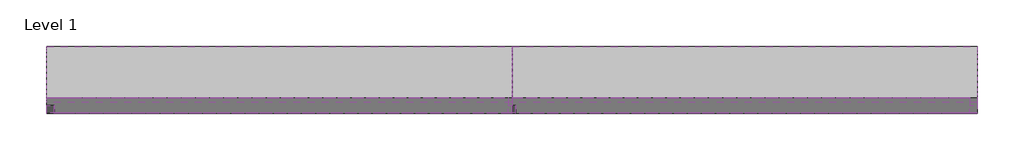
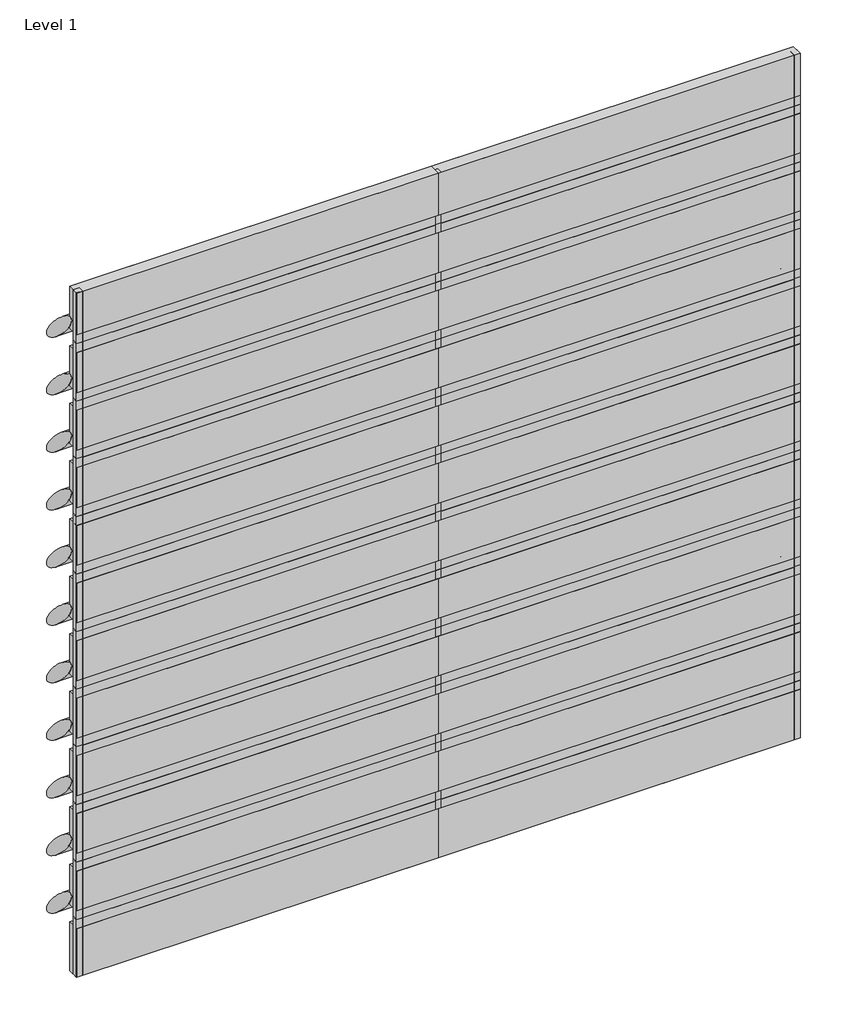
# One storey: 58 members, 48 plates.
"""IFC4 building model written with IfcOpenShell, lengths in millimetres."""

from ifc_helpers import new_model, si_unit, origin, place, context, project, spatial, transform, mapped, element, save
from components import rectangular_mullion_b4513789, rectangular_mullion_058744f8, rectangular_mullion_f7ae43f3, rectangular_mullion_a2429558, rectangular_mullion_4e96f492, rectangular_mullion_4d54ce13, rectangular_mullion_fc1c4b0a, empty_system_panel_empty_84209388, empty_system_panel_empty_0e55d925, empty_system_panel_empty_ab265454, empty_system_panel_empty_441d4f81, empty_system_panel_empty_c037ad02

model = new_model("IFC4")

# Units and contexts
model_context = context("Model", 3, world=origin())
ifc_project = project(units=[si_unit("LENGTHUNIT", "METRE", prefix="MILLI")], contexts=[model_context])

# Site, building, storey
site = spatial("IfcSite", under=ifc_project)
building = spatial("IfcBuilding", under=site)
storey = spatial("IfcBuildingStorey", under=building, Name="Level 1", Elevation=0.0)

# Members
placement = place(None, origin())
rectangular_mullion_shape = rectangular_mullion_b4513789(model_context)
element("IfcMember", 1, ObjectType="Rectangular Mullion : RSen_21_CWM_blade - wing 500 - 45° perforated_gen_duco projects", at=placement, inside=storey, context=model_context, shape_type="MappedRepresentation", body=[
    mapped(rectangular_mullion_shape, transform((3000.0, 3000.0, 505.0), x_axis=(0.0, 0.0, 1.0), y_axis=(0.0, 1.0, 0.0), z_axis=(-1.0, 0.0, 0.0))),
])
element("IfcMember", 2, ObjectType="Rectangular Mullion : RSen_21_CWM_blade - wing 500 - 45° perforated_gen_duco projects", at=placement, inside=storey, context=model_context, shape_type="MappedRepresentation", body=[
    mapped(rectangular_mullion_shape, transform((3000.0, 3000.0, 1010.0), x_axis=(0.0, 0.0, 1.0), y_axis=(0.0, 1.0, 0.0), z_axis=(-1.0, 0.0, 0.0))),
])
element("IfcMember", 3, ObjectType="Rectangular Mullion : RSen_21_CWM_blade - wing 500 - 45° perforated_gen_duco projects", at=placement, inside=storey, context=model_context, shape_type="MappedRepresentation", body=[
    mapped(rectangular_mullion_shape, transform((3000.0, 3000.0, 1515.0), x_axis=(0.0, 0.0, 1.0), y_axis=(0.0, 1.0, 0.0), z_axis=(-1.0, 0.0, 0.0))),
])
element("IfcMember", 4, ObjectType="Rectangular Mullion : RSen_21_CWM_blade - wing 500 - 45° perforated_gen_duco projects", at=placement, inside=storey, context=model_context, shape_type="MappedRepresentation", body=[
    mapped(rectangular_mullion_shape, transform((3000.0, 3000.0, 2020.0), x_axis=(0.0, 0.0, 1.0), y_axis=(0.0, 1.0, 0.0), z_axis=(-1.0, 0.0, 0.0))),
])
element("IfcMember", 5, ObjectType="Rectangular Mullion : RSen_21_CWM_blade - wing 500 - 45° perforated_gen_duco projects", at=placement, inside=storey, context=model_context, shape_type="MappedRepresentation", body=[
    mapped(rectangular_mullion_shape, transform((3000.0, 3000.0, 2525.0), x_axis=(0.0, 0.0, 1.0), y_axis=(0.0, 1.0, 0.0), z_axis=(-1.0, 0.0, 0.0))),
])
element("IfcMember", 6, ObjectType="Rectangular Mullion : RSen_21_CWM_blade - wing 500 - 45° perforated_gen_duco projects", at=placement, inside=storey, context=model_context, shape_type="MappedRepresentation", body=[
    mapped(rectangular_mullion_shape, transform((3000.0, 3000.0, 3030.0), x_axis=(0.0, 0.0, 1.0), y_axis=(0.0, 1.0, 0.0), z_axis=(-1.0, 0.0, 0.0))),
])
element("IfcMember", 7, ObjectType="Rectangular Mullion : RSen_21_CWM_blade - wing 500 - 45° perforated_gen_duco projects", at=placement, inside=storey, context=model_context, shape_type="MappedRepresentation", body=[
    mapped(rectangular_mullion_shape, transform((3000.0, 3000.0, 3535.0), x_axis=(0.0, 0.0, 1.0), y_axis=(0.0, 1.0, 0.0), z_axis=(-1.0, 0.0, 0.0))),
])
element("IfcMember", 8, ObjectType="Rectangular Mullion : RSen_21_CWM_blade - wing 500 - 45° perforated_gen_duco projects", at=placement, inside=storey, context=model_context, shape_type="MappedRepresentation", body=[
    mapped(rectangular_mullion_shape, transform((3000.0, 3000.0, 4040.0), x_axis=(0.0, 0.0, 1.0), y_axis=(0.0, 1.0, 0.0), z_axis=(-1.0, 0.0, 0.0))),
])
element("IfcMember", 9, ObjectType="Rectangular Mullion : RSen_21_CWM_blade - wing 500 - 45° perforated_gen_duco projects", at=placement, inside=storey, context=model_context, shape_type="MappedRepresentation", body=[
    mapped(rectangular_mullion_shape, transform((3000.0, 3000.0, 4545.0), x_axis=(0.0, 0.0, 1.0), y_axis=(0.0, 1.0, 0.0), z_axis=(-1.0, 0.0, 0.0))),
])
element("IfcMember", 10, ObjectType="Rectangular Mullion : RSen_21_CWM_blade - wing 500 - 45° perforated_gen_duco projects", at=placement, inside=storey, context=model_context, shape_type="MappedRepresentation", body=[
    mapped(rectangular_mullion_shape, transform((3000.0, 3000.0, 5050.0), x_axis=(0.0, 0.0, 1.0), y_axis=(0.0, 1.0, 0.0), z_axis=(-1.0, 0.0, 0.0))),
])
element("IfcMember", 11, ObjectType="Rectangular Mullion : RSen_21_CWM_blade - wing 500 - 45° perforated_gen_duco projects", at=placement, inside=storey, context=model_context, shape_type="MappedRepresentation", body=[
    mapped(rectangular_mullion_shape, transform((3000.0, 3000.0, 5555.0), x_axis=(0.0, 0.0, 1.0), y_axis=(0.0, 1.0, 0.0), z_axis=(-1.0, 0.0, 0.0))),
])
element("IfcMember", 12, ObjectType="Rectangular Mullion : RSen_21_CWM_blade - wing 500 - 45° perforated_gen_duco projects", at=placement, inside=storey, context=model_context, shape_type="MappedRepresentation", body=[
    mapped(rectangular_mullion_shape, transform((0.0, 3000.0, 505.0), x_axis=(0.0, 0.0, 1.0), y_axis=(0.0, 1.0, 0.0), z_axis=(-1.0, 0.0, 0.0))),
])
element("IfcMember", 13, ObjectType="Rectangular Mullion : RSen_21_CWM_blade - wing 500 - 45° perforated_gen_duco projects", at=placement, inside=storey, context=model_context, shape_type="MappedRepresentation", body=[
    mapped(rectangular_mullion_shape, transform((0.0, 3000.0, 1010.0), x_axis=(0.0, 0.0, 1.0), y_axis=(0.0, 1.0, 0.0), z_axis=(-1.0, 0.0, 0.0))),
])
element("IfcMember", 14, ObjectType="Rectangular Mullion : RSen_21_CWM_blade - wing 500 - 45° perforated_gen_duco projects", at=placement, inside=storey, context=model_context, shape_type="MappedRepresentation", body=[
    mapped(rectangular_mullion_shape, transform((0.0, 3000.0, 1515.0), x_axis=(0.0, 0.0, 1.0), y_axis=(0.0, 1.0, 0.0), z_axis=(-1.0, 0.0, 0.0))),
])
element("IfcMember", 15, ObjectType="Rectangular Mullion : RSen_21_CWM_blade - wing 500 - 45° perforated_gen_duco projects", at=placement, inside=storey, context=model_context, shape_type="MappedRepresentation", body=[
    mapped(rectangular_mullion_shape, transform((0.0, 3000.0, 2020.0), x_axis=(0.0, 0.0, 1.0), y_axis=(0.0, 1.0, 0.0), z_axis=(-1.0, 0.0, 0.0))),
])
element("IfcMember", 16, ObjectType="Rectangular Mullion : RSen_21_CWM_blade - wing 500 - 45° perforated_gen_duco projects", at=placement, inside=storey, context=model_context, shape_type="MappedRepresentation", body=[
    mapped(rectangular_mullion_shape, transform((0.0, 3000.0, 2525.0), x_axis=(0.0, 0.0, 1.0), y_axis=(0.0, 1.0, 0.0), z_axis=(-1.0, 0.0, 0.0))),
])
element("IfcMember", 17, ObjectType="Rectangular Mullion : RSen_21_CWM_blade - wing 500 - 45° perforated_gen_duco projects", at=placement, inside=storey, context=model_context, shape_type="MappedRepresentation", body=[
    mapped(rectangular_mullion_shape, transform((0.0, 3000.0, 3030.0), x_axis=(0.0, 0.0, 1.0), y_axis=(0.0, 1.0, 0.0), z_axis=(-1.0, 0.0, 0.0))),
])
element("IfcMember", 18, ObjectType="Rectangular Mullion : RSen_21_CWM_blade - wing 500 - 45° perforated_gen_duco projects", at=placement, inside=storey, context=model_context, shape_type="MappedRepresentation", body=[
    mapped(rectangular_mullion_shape, transform((0.0, 3000.0, 3535.0), x_axis=(0.0, 0.0, 1.0), y_axis=(0.0, 1.0, 0.0), z_axis=(-1.0, 0.0, 0.0))),
])
element("IfcMember", 19, ObjectType="Rectangular Mullion : RSen_21_CWM_blade - wing 500 - 45° perforated_gen_duco projects", at=placement, inside=storey, context=model_context, shape_type="MappedRepresentation", body=[
    mapped(rectangular_mullion_shape, transform((0.0, 3000.0, 4040.0), x_axis=(0.0, 0.0, 1.0), y_axis=(0.0, 1.0, 0.0), z_axis=(-1.0, 0.0, 0.0))),
])
element("IfcMember", 20, ObjectType="Rectangular Mullion : RSen_21_CWM_blade - wing 500 - 45° perforated_gen_duco projects", at=placement, inside=storey, context=model_context, shape_type="MappedRepresentation", body=[
    mapped(rectangular_mullion_shape, transform((0.0, 3000.0, 4545.0), x_axis=(0.0, 0.0, 1.0), y_axis=(0.0, 1.0, 0.0), z_axis=(-1.0, 0.0, 0.0))),
])
element("IfcMember", 21, ObjectType="Rectangular Mullion : RSen_21_CWM_blade - wing 500 - 45° perforated_gen_duco projects", at=placement, inside=storey, context=model_context, shape_type="MappedRepresentation", body=[
    mapped(rectangular_mullion_shape, transform((0.0, 3000.0, 5050.0), x_axis=(0.0, 0.0, 1.0), y_axis=(0.0, 1.0, 0.0), z_axis=(-1.0, 0.0, 0.0))),
])
element("IfcMember", 22, ObjectType="Rectangular Mullion : RSen_21_CWM_blade - wing 500 - 45° perforated_gen_duco projects", at=placement, inside=storey, context=model_context, shape_type="MappedRepresentation", body=[
    mapped(rectangular_mullion_shape, transform((0.0, 3000.0, 5555.0), x_axis=(0.0, 0.0, 1.0), y_axis=(0.0, 1.0, 0.0), z_axis=(-1.0, 0.0, 0.0))),
])
rectangular_mullion_2_shape = rectangular_mullion_058744f8(model_context)
element("IfcMember", 23, ObjectType="Rectangular Mullion : RSen_21_CWM_support profile 50x50_gen_duco projects", at=placement, inside=storey, context=model_context, shape_type="MappedRepresentation", body=[
    mapped(rectangular_mullion_2_shape, transform((3000.0, 3000.0, 0.0), x_axis=(-1.0, 0.0, 0.0), y_axis=(0.0, 1.0, 0.0), z_axis=(0.0, 0.0, -1.0))),
])
element("IfcMember", 24, ObjectType="Rectangular Mullion : RSen_21_CWM_support profile 50x50_gen_duco projects", at=placement, inside=storey, context=model_context, shape_type="MappedRepresentation", body=[
    mapped(rectangular_mullion_2_shape, transform((3000.0, 3000.0, 505.0), x_axis=(-1.0, 0.0, 0.0), y_axis=(0.0, 1.0, 0.0), z_axis=(0.0, 0.0, -1.0))),
])
element("IfcMember", 25, ObjectType="Rectangular Mullion : RSen_21_CWM_support profile 50x50_gen_duco projects", at=placement, inside=storey, context=model_context, shape_type="MappedRepresentation", body=[
    mapped(rectangular_mullion_2_shape, transform((3000.0, 3000.0, 1010.0), x_axis=(-1.0, 0.0, 0.0), y_axis=(0.0, 1.0, 0.0), z_axis=(0.0, 0.0, -1.0))),
])
element("IfcMember", 26, ObjectType="Rectangular Mullion : RSen_21_CWM_support profile 50x50_gen_duco projects", at=placement, inside=storey, context=model_context, shape_type="MappedRepresentation", body=[
    mapped(rectangular_mullion_2_shape, transform((3000.0, 3000.0, 1515.0), x_axis=(-1.0, 0.0, 0.0), y_axis=(0.0, 1.0, 0.0), z_axis=(0.0, 0.0, -1.0))),
])
element("IfcMember", 27, ObjectType="Rectangular Mullion : RSen_21_CWM_support profile 50x50_gen_duco projects", at=placement, inside=storey, context=model_context, shape_type="MappedRepresentation", body=[
    mapped(rectangular_mullion_2_shape, transform((3000.0, 3000.0, 2020.0), x_axis=(-1.0, 0.0, 0.0), y_axis=(0.0, 1.0, 0.0), z_axis=(0.0, 0.0, -1.0))),
])
element("IfcMember", 28, ObjectType="Rectangular Mullion : RSen_21_CWM_support profile 50x50_gen_duco projects", at=placement, inside=storey, context=model_context, shape_type="MappedRepresentation", body=[
    mapped(rectangular_mullion_2_shape, transform((3000.0, 3000.0, 2525.0), x_axis=(-1.0, 0.0, 0.0), y_axis=(0.0, 1.0, 0.0), z_axis=(0.0, 0.0, -1.0))),
])
element("IfcMember", 29, ObjectType="Rectangular Mullion : RSen_21_CWM_support profile 50x50_gen_duco projects", at=placement, inside=storey, context=model_context, shape_type="MappedRepresentation", body=[
    mapped(rectangular_mullion_2_shape, transform((3000.0, 3000.0, 3030.0), x_axis=(-1.0, 0.0, 0.0), y_axis=(0.0, 1.0, 0.0), z_axis=(0.0, 0.0, -1.0))),
])
element("IfcMember", 30, ObjectType="Rectangular Mullion : RSen_21_CWM_support profile 50x50_gen_duco projects", at=placement, inside=storey, context=model_context, shape_type="MappedRepresentation", body=[
    mapped(rectangular_mullion_2_shape, transform((3000.0, 3000.0, 3535.0), x_axis=(-1.0, 0.0, 0.0), y_axis=(0.0, 1.0, 0.0), z_axis=(0.0, 0.0, -1.0))),
])
element("IfcMember", 31, ObjectType="Rectangular Mullion : RSen_21_CWM_support profile 50x50_gen_duco projects", at=placement, inside=storey, context=model_context, shape_type="MappedRepresentation", body=[
    mapped(rectangular_mullion_2_shape, transform((3000.0, 3000.0, 4040.0), x_axis=(-1.0, 0.0, 0.0), y_axis=(0.0, 1.0, 0.0), z_axis=(0.0, 0.0, -1.0))),
])
element("IfcMember", 32, ObjectType="Rectangular Mullion : RSen_21_CWM_support profile 50x50_gen_duco projects", at=placement, inside=storey, context=model_context, shape_type="MappedRepresentation", body=[
    mapped(rectangular_mullion_2_shape, transform((3000.0, 3000.0, 4545.0), x_axis=(-1.0, 0.0, 0.0), y_axis=(0.0, 1.0, 0.0), z_axis=(0.0, 0.0, -1.0))),
])
element("IfcMember", 33, ObjectType="Rectangular Mullion : RSen_21_CWM_support profile 50x50_gen_duco projects", at=placement, inside=storey, context=model_context, shape_type="MappedRepresentation", body=[
    mapped(rectangular_mullion_2_shape, transform((3000.0, 3000.0, 5050.0), x_axis=(-1.0, 0.0, 0.0), y_axis=(0.0, 1.0, 0.0), z_axis=(0.0, 0.0, -1.0))),
])
rectangular_mullion_3_shape = rectangular_mullion_f7ae43f3(model_context)
element("IfcMember", 34, ObjectType="Rectangular Mullion : RSen_21_CWM_support profile 50x50_gen_duco projects", at=placement, inside=storey, context=model_context, shape_type="MappedRepresentation", body=[
    mapped(rectangular_mullion_3_shape, transform((3000.0, 3000.0, 5555.0), x_axis=(-1.0, 0.0, 0.0), y_axis=(0.0, 1.0, 0.0), z_axis=(0.0, 0.0, -1.0))),
])
rectangular_mullion_4_shape = rectangular_mullion_a2429558(model_context)
element("IfcMember", 35, ObjectType="Rectangular Mullion : RSen_21_CWM_support profile 50x50 - left_gen_duco projects", at=placement, inside=storey, context=model_context, shape_type="MappedRepresentation", body=[
    mapped(rectangular_mullion_4_shape, transform((0.0, 3000.0, 0.0), x_axis=(-1.0, 0.0, 0.0), y_axis=(0.0, 1.0, 0.0), z_axis=(0.0, 0.0, -1.0))),
])
rectangular_mullion_5_shape = rectangular_mullion_4e96f492(model_context)
element("IfcMember", 36, ObjectType="Rectangular Mullion : RSen_21_CWM_support profile 50x50 - right_gen_duco projects", at=placement, inside=storey, context=model_context, shape_type="MappedRepresentation", body=[
    mapped(rectangular_mullion_5_shape, transform((6000.0, 3000.0, 6000.0), x_axis=(1.0, 0.0, 0.0), y_axis=(0.0, 1.0, 0.0), z_axis=(0.0, 0.0, 1.0))),
])
element("IfcMember", 37, ObjectType="Rectangular Mullion : RSen_21_CWM_support profile 50x50 - left_gen_duco projects", at=placement, inside=storey, context=model_context, shape_type="MappedRepresentation", body=[
    mapped(rectangular_mullion_4_shape, transform((0.0, 3000.0, 505.0), x_axis=(-1.0, 0.0, 0.0), y_axis=(0.0, 1.0, 0.0), z_axis=(0.0, 0.0, -1.0))),
])
element("IfcMember", 38, ObjectType="Rectangular Mullion : RSen_21_CWM_support profile 50x50 - left_gen_duco projects", at=placement, inside=storey, context=model_context, shape_type="MappedRepresentation", body=[
    mapped(rectangular_mullion_4_shape, transform((0.0, 3000.0, 1010.0), x_axis=(-1.0, 0.0, 0.0), y_axis=(0.0, 1.0, 0.0), z_axis=(0.0, 0.0, -1.0))),
])
element("IfcMember", 39, ObjectType="Rectangular Mullion : RSen_21_CWM_support profile 50x50 - left_gen_duco projects", at=placement, inside=storey, context=model_context, shape_type="MappedRepresentation", body=[
    mapped(rectangular_mullion_4_shape, transform((0.0, 3000.0, 1515.0), x_axis=(-1.0, 0.0, 0.0), y_axis=(0.0, 1.0, 0.0), z_axis=(0.0, 0.0, -1.0))),
])
element("IfcMember", 40, ObjectType="Rectangular Mullion : RSen_21_CWM_support profile 50x50 - left_gen_duco projects", at=placement, inside=storey, context=model_context, shape_type="MappedRepresentation", body=[
    mapped(rectangular_mullion_4_shape, transform((0.0, 3000.0, 2020.0), x_axis=(-1.0, 0.0, 0.0), y_axis=(0.0, 1.0, 0.0), z_axis=(0.0, 0.0, -1.0))),
])
element("IfcMember", 41, ObjectType="Rectangular Mullion : RSen_21_CWM_support profile 50x50 - left_gen_duco projects", at=placement, inside=storey, context=model_context, shape_type="MappedRepresentation", body=[
    mapped(rectangular_mullion_4_shape, transform((0.0, 3000.0, 2525.0), x_axis=(-1.0, 0.0, 0.0), y_axis=(0.0, 1.0, 0.0), z_axis=(0.0, 0.0, -1.0))),
])
element("IfcMember", 42, ObjectType="Rectangular Mullion : RSen_21_CWM_support profile 50x50 - left_gen_duco projects", at=placement, inside=storey, context=model_context, shape_type="MappedRepresentation", body=[
    mapped(rectangular_mullion_4_shape, transform((0.0, 3000.0, 3030.0), x_axis=(-1.0, 0.0, 0.0), y_axis=(0.0, 1.0, 0.0), z_axis=(0.0, 0.0, -1.0))),
])
element("IfcMember", 43, ObjectType="Rectangular Mullion : RSen_21_CWM_support profile 50x50 - left_gen_duco projects", at=placement, inside=storey, context=model_context, shape_type="MappedRepresentation", body=[
    mapped(rectangular_mullion_4_shape, transform((0.0, 3000.0, 3535.0), x_axis=(-1.0, 0.0, 0.0), y_axis=(0.0, 1.0, 0.0), z_axis=(0.0, 0.0, -1.0))),
])
element("IfcMember", 44, ObjectType="Rectangular Mullion : RSen_21_CWM_support profile 50x50 - left_gen_duco projects", at=placement, inside=storey, context=model_context, shape_type="MappedRepresentation", body=[
    mapped(rectangular_mullion_4_shape, transform((0.0, 3000.0, 4040.0), x_axis=(-1.0, 0.0, 0.0), y_axis=(0.0, 1.0, 0.0), z_axis=(0.0, 0.0, -1.0))),
])
element("IfcMember", 45, ObjectType="Rectangular Mullion : RSen_21_CWM_support profile 50x50 - left_gen_duco projects", at=placement, inside=storey, context=model_context, shape_type="MappedRepresentation", body=[
    mapped(rectangular_mullion_4_shape, transform((0.0, 3000.0, 4545.0), x_axis=(-1.0, 0.0, 0.0), y_axis=(0.0, 1.0, 0.0), z_axis=(0.0, 0.0, -1.0))),
])
element("IfcMember", 46, ObjectType="Rectangular Mullion : RSen_21_CWM_support profile 50x50 - left_gen_duco projects", at=placement, inside=storey, context=model_context, shape_type="MappedRepresentation", body=[
    mapped(rectangular_mullion_4_shape, transform((0.0, 3000.0, 5050.0), x_axis=(-1.0, 0.0, 0.0), y_axis=(0.0, 1.0, 0.0), z_axis=(0.0, 0.0, -1.0))),
])
rectangular_mullion_6_shape = rectangular_mullion_4d54ce13(model_context)
element("IfcMember", 47, ObjectType="Rectangular Mullion : RSen_21_CWM_support profile 50x50 - left_gen_duco projects", at=placement, inside=storey, context=model_context, shape_type="MappedRepresentation", body=[
    mapped(rectangular_mullion_6_shape, transform((0.0, 3000.0, 5555.0), x_axis=(-1.0, 0.0, 0.0), y_axis=(0.0, 1.0, 0.0), z_axis=(0.0, 0.0, -1.0))),
])
rectangular_mullion_7_shape = rectangular_mullion_fc1c4b0a(model_context)
element("IfcMember", 48, ObjectType="Rectangular Mullion : RSen_21_CWM_support profile 50x50 - right_gen_duco projects", at=placement, inside=storey, context=model_context, shape_type="MappedRepresentation", body=[
    mapped(rectangular_mullion_7_shape, transform((6000.0, 3000.0, 505.0), x_axis=(1.0, 0.0, 0.0), y_axis=(0.0, 1.0, 0.0), z_axis=(0.0, 0.0, 1.0))),
])
element("IfcMember", 49, ObjectType="Rectangular Mullion : RSen_21_CWM_support profile 50x50 - right_gen_duco projects", at=placement, inside=storey, context=model_context, shape_type="MappedRepresentation", body=[
    mapped(rectangular_mullion_7_shape, transform((6000.0, 3000.0, 1010.0), x_axis=(1.0, 0.0, 0.0), y_axis=(0.0, 1.0, 0.0), z_axis=(0.0, 0.0, 1.0))),
])
element("IfcMember", 50, ObjectType="Rectangular Mullion : RSen_21_CWM_support profile 50x50 - right_gen_duco projects", at=placement, inside=storey, context=model_context, shape_type="MappedRepresentation", body=[
    mapped(rectangular_mullion_7_shape, transform((6000.0, 3000.0, 1515.0), x_axis=(1.0, 0.0, 0.0), y_axis=(0.0, 1.0, 0.0), z_axis=(0.0, 0.0, 1.0))),
])
element("IfcMember", 51, ObjectType="Rectangular Mullion : RSen_21_CWM_support profile 50x50 - right_gen_duco projects", at=placement, inside=storey, context=model_context, shape_type="MappedRepresentation", body=[
    mapped(rectangular_mullion_7_shape, transform((6000.0, 3000.0, 2020.0), x_axis=(1.0, 0.0, 0.0), y_axis=(0.0, 1.0, 0.0), z_axis=(0.0, 0.0, 1.0))),
])
element("IfcMember", 52, ObjectType="Rectangular Mullion : RSen_21_CWM_support profile 50x50 - right_gen_duco projects", at=placement, inside=storey, context=model_context, shape_type="MappedRepresentation", body=[
    mapped(rectangular_mullion_7_shape, transform((6000.0, 3000.0, 2525.0), x_axis=(1.0, 0.0, 0.0), y_axis=(0.0, 1.0, 0.0), z_axis=(0.0, 0.0, 1.0))),
])
element("IfcMember", 53, ObjectType="Rectangular Mullion : RSen_21_CWM_support profile 50x50 - right_gen_duco projects", at=placement, inside=storey, context=model_context, shape_type="MappedRepresentation", body=[
    mapped(rectangular_mullion_7_shape, transform((6000.0, 3000.0, 3030.0), x_axis=(1.0, 0.0, 0.0), y_axis=(0.0, 1.0, 0.0), z_axis=(0.0, 0.0, 1.0))),
])
element("IfcMember", 54, ObjectType="Rectangular Mullion : RSen_21_CWM_support profile 50x50 - right_gen_duco projects", at=placement, inside=storey, context=model_context, shape_type="MappedRepresentation", body=[
    mapped(rectangular_mullion_7_shape, transform((6000.0, 3000.0, 3535.0), x_axis=(1.0, 0.0, 0.0), y_axis=(0.0, 1.0, 0.0), z_axis=(0.0, 0.0, 1.0))),
])
element("IfcMember", 55, ObjectType="Rectangular Mullion : RSen_21_CWM_support profile 50x50 - right_gen_duco projects", at=placement, inside=storey, context=model_context, shape_type="MappedRepresentation", body=[
    mapped(rectangular_mullion_7_shape, transform((6000.0, 3000.0, 4040.0), x_axis=(1.0, 0.0, 0.0), y_axis=(0.0, 1.0, 0.0), z_axis=(0.0, 0.0, 1.0))),
])
element("IfcMember", 56, ObjectType="Rectangular Mullion : RSen_21_CWM_support profile 50x50 - right_gen_duco projects", at=placement, inside=storey, context=model_context, shape_type="MappedRepresentation", body=[
    mapped(rectangular_mullion_7_shape, transform((6000.0, 3000.0, 4545.0), x_axis=(1.0, 0.0, 0.0), y_axis=(0.0, 1.0, 0.0), z_axis=(0.0, 0.0, 1.0))),
])
element("IfcMember", 57, ObjectType="Rectangular Mullion : RSen_21_CWM_support profile 50x50 - right_gen_duco projects", at=placement, inside=storey, context=model_context, shape_type="MappedRepresentation", body=[
    mapped(rectangular_mullion_7_shape, transform((6000.0, 3000.0, 5050.0), x_axis=(1.0, 0.0, 0.0), y_axis=(0.0, 1.0, 0.0), z_axis=(0.0, 0.0, 1.0))),
])
element("IfcMember", 58, ObjectType="Rectangular Mullion : RSen_21_CWM_support profile 50x50 - right_gen_duco projects", at=placement, inside=storey, context=model_context, shape_type="MappedRepresentation", body=[
    mapped(rectangular_mullion_7_shape, transform((6000.0, 3000.0, 5555.0), x_axis=(1.0, 0.0, 0.0), y_axis=(0.0, 1.0, 0.0), z_axis=(0.0, 0.0, 1.0))),
])

# Plates
empty_system_panel_empty_shape = empty_system_panel_empty_84209388(model_context)
element("IfcPlate", 59, ObjectType="Empty System Panel : Empty", at=placement, inside=storey, context=model_context, shape_type="MappedRepresentation", body=[
    mapped(empty_system_panel_empty_shape, transform((4500.0, 3000.0, 0.0), x_axis=(-1.0, 0.0, 0.0), y_axis=(0.0, -1.0, 0.0), z_axis=(0.0, 0.0, 1.0))),
])
element("IfcPlate", 60, ObjectType="Empty System Panel : Empty", at=placement, inside=storey, context=model_context, shape_type="MappedRepresentation", body=[
    mapped(empty_system_panel_empty_shape, transform((1500.0, 3000.0, 0.0), x_axis=(-1.0, 0.0, 0.0), y_axis=(0.0, -1.0, 0.0), z_axis=(0.0, 0.0, 1.0))),
])
empty_system_panel_empty_2_shape = empty_system_panel_empty_0e55d925(model_context)
element("IfcPlate", 61, ObjectType="Empty System Panel : Empty", at=placement, inside=storey, context=model_context, shape_type="MappedRepresentation", body=[
    mapped(empty_system_panel_empty_2_shape, transform((4500.0, 3000.0, 582.7817459), x_axis=(-1.0, 0.0, 0.0), y_axis=(0.0, -1.0, 0.0), z_axis=(0.0, 0.0, 1.0))),
])
element("IfcPlate", 62, ObjectType="Empty System Panel : Empty", at=placement, inside=storey, context=model_context, shape_type="MappedRepresentation", body=[
    mapped(empty_system_panel_empty_2_shape, transform((1500.0, 3000.0, 582.7817459), x_axis=(-1.0, 0.0, 0.0), y_axis=(0.0, -1.0, 0.0), z_axis=(0.0, 0.0, 1.0))),
])
element("IfcPlate", 63, ObjectType="Empty System Panel : Empty", at=placement, inside=storey, context=model_context, shape_type="MappedRepresentation", body=[
    mapped(empty_system_panel_empty_2_shape, transform((4500.0, 3000.0, 1087.7817459), x_axis=(-1.0, 0.0, 0.0), y_axis=(0.0, -1.0, 0.0), z_axis=(0.0, 0.0, 1.0))),
])
element("IfcPlate", 64, ObjectType="Empty System Panel : Empty", at=placement, inside=storey, context=model_context, shape_type="MappedRepresentation", body=[
    mapped(empty_system_panel_empty_2_shape, transform((1500.0, 3000.0, 1087.7817459), x_axis=(-1.0, 0.0, 0.0), y_axis=(0.0, -1.0, 0.0), z_axis=(0.0, 0.0, 1.0))),
])
element("IfcPlate", 65, ObjectType="Empty System Panel : Empty", at=placement, inside=storey, context=model_context, shape_type="MappedRepresentation", body=[
    mapped(empty_system_panel_empty_2_shape, transform((4500.0, 3000.0, 1592.7817459), x_axis=(-1.0, 0.0, 0.0), y_axis=(0.0, -1.0, 0.0), z_axis=(0.0, 0.0, 1.0))),
])
element("IfcPlate", 66, ObjectType="Empty System Panel : Empty", at=placement, inside=storey, context=model_context, shape_type="MappedRepresentation", body=[
    mapped(empty_system_panel_empty_2_shape, transform((1500.0, 3000.0, 1592.7817459), x_axis=(-1.0, 0.0, 0.0), y_axis=(0.0, -1.0, 0.0), z_axis=(0.0, 0.0, 1.0))),
])
element("IfcPlate", 67, ObjectType="Empty System Panel : Empty", at=placement, inside=storey, context=model_context, shape_type="MappedRepresentation", body=[
    mapped(empty_system_panel_empty_2_shape, transform((4500.0, 3000.0, 2097.7817459), x_axis=(-1.0, 0.0, 0.0), y_axis=(0.0, -1.0, 0.0), z_axis=(0.0, 0.0, 1.0))),
])
element("IfcPlate", 68, ObjectType="Empty System Panel : Empty", at=placement, inside=storey, context=model_context, shape_type="MappedRepresentation", body=[
    mapped(empty_system_panel_empty_2_shape, transform((1500.0, 3000.0, 2097.7817459), x_axis=(-1.0, 0.0, 0.0), y_axis=(0.0, -1.0, 0.0), z_axis=(0.0, 0.0, 1.0))),
])
element("IfcPlate", 69, ObjectType="Empty System Panel : Empty", at=placement, inside=storey, context=model_context, shape_type="MappedRepresentation", body=[
    mapped(empty_system_panel_empty_2_shape, transform((4500.0, 3000.0, 2602.7817459), x_axis=(-1.0, 0.0, 0.0), y_axis=(0.0, -1.0, 0.0), z_axis=(0.0, 0.0, 1.0))),
])
element("IfcPlate", 70, ObjectType="Empty System Panel : Empty", at=placement, inside=storey, context=model_context, shape_type="MappedRepresentation", body=[
    mapped(empty_system_panel_empty_2_shape, transform((1500.0, 3000.0, 2602.7817459), x_axis=(-1.0, 0.0, 0.0), y_axis=(0.0, -1.0, 0.0), z_axis=(0.0, 0.0, 1.0))),
])
element("IfcPlate", 71, ObjectType="Empty System Panel : Empty", at=placement, inside=storey, context=model_context, shape_type="MappedRepresentation", body=[
    mapped(empty_system_panel_empty_2_shape, transform((4500.0, 3000.0, 3107.7817459), x_axis=(-1.0, 0.0, 0.0), y_axis=(0.0, -1.0, 0.0), z_axis=(0.0, 0.0, 1.0))),
])
element("IfcPlate", 72, ObjectType="Empty System Panel : Empty", at=placement, inside=storey, context=model_context, shape_type="MappedRepresentation", body=[
    mapped(empty_system_panel_empty_2_shape, transform((1500.0, 3000.0, 3107.7817459), x_axis=(-1.0, 0.0, 0.0), y_axis=(0.0, -1.0, 0.0), z_axis=(0.0, 0.0, 1.0))),
])
element("IfcPlate", 73, ObjectType="Empty System Panel : Empty", at=placement, inside=storey, context=model_context, shape_type="MappedRepresentation", body=[
    mapped(empty_system_panel_empty_2_shape, transform((4500.0, 3000.0, 3612.7817459), x_axis=(-1.0, 0.0, 0.0), y_axis=(0.0, -1.0, 0.0), z_axis=(0.0, 0.0, 1.0))),
])
element("IfcPlate", 74, ObjectType="Empty System Panel : Empty", at=placement, inside=storey, context=model_context, shape_type="MappedRepresentation", body=[
    mapped(empty_system_panel_empty_2_shape, transform((1500.0, 3000.0, 3612.7817459), x_axis=(-1.0, 0.0, 0.0), y_axis=(0.0, -1.0, 0.0), z_axis=(0.0, 0.0, 1.0))),
])
element("IfcPlate", 75, ObjectType="Empty System Panel : Empty", at=placement, inside=storey, context=model_context, shape_type="MappedRepresentation", body=[
    mapped(empty_system_panel_empty_2_shape, transform((4500.0, 3000.0, 4117.7817459), x_axis=(-1.0, 0.0, 0.0), y_axis=(0.0, -1.0, 0.0), z_axis=(0.0, 0.0, 1.0))),
])
element("IfcPlate", 76, ObjectType="Empty System Panel : Empty", at=placement, inside=storey, context=model_context, shape_type="MappedRepresentation", body=[
    mapped(empty_system_panel_empty_2_shape, transform((1500.0, 3000.0, 4117.7817459), x_axis=(-1.0, 0.0, 0.0), y_axis=(0.0, -1.0, 0.0), z_axis=(0.0, 0.0, 1.0))),
])
element("IfcPlate", 77, ObjectType="Empty System Panel : Empty", at=placement, inside=storey, context=model_context, shape_type="MappedRepresentation", body=[
    mapped(empty_system_panel_empty_2_shape, transform((4500.0, 3000.0, 4622.7817459), x_axis=(-1.0, 0.0, 0.0), y_axis=(0.0, -1.0, 0.0), z_axis=(0.0, 0.0, 1.0))),
])
element("IfcPlate", 78, ObjectType="Empty System Panel : Empty", at=placement, inside=storey, context=model_context, shape_type="MappedRepresentation", body=[
    mapped(empty_system_panel_empty_2_shape, transform((1500.0, 3000.0, 4622.7817459), x_axis=(-1.0, 0.0, 0.0), y_axis=(0.0, -1.0, 0.0), z_axis=(0.0, 0.0, 1.0))),
])
element("IfcPlate", 79, ObjectType="Empty System Panel : Empty", at=placement, inside=storey, context=model_context, shape_type="MappedRepresentation", body=[
    mapped(empty_system_panel_empty_2_shape, transform((4500.0, 3000.0, 5127.7817459), x_axis=(-1.0, 0.0, 0.0), y_axis=(0.0, -1.0, 0.0), z_axis=(0.0, 0.0, 1.0))),
])
element("IfcPlate", 80, ObjectType="Empty System Panel : Empty", at=placement, inside=storey, context=model_context, shape_type="MappedRepresentation", body=[
    mapped(empty_system_panel_empty_2_shape, transform((1500.0, 3000.0, 5127.7817459), x_axis=(-1.0, 0.0, 0.0), y_axis=(0.0, -1.0, 0.0), z_axis=(0.0, 0.0, 1.0))),
])
empty_system_panel_empty_3_shape = empty_system_panel_empty_ab265454(model_context)
element("IfcPlate", 81, ObjectType="Empty System Panel : Empty", at=placement, inside=storey, context=model_context, shape_type="MappedRepresentation", body=[
    mapped(empty_system_panel_empty_3_shape, transform((4500.0, 3000.0, 5632.7817459), x_axis=(-1.0, 0.0, 0.0), y_axis=(0.0, -1.0, 0.0), z_axis=(0.0, 0.0, 1.0))),
])
element("IfcPlate", 82, ObjectType="Empty System Panel : Empty", at=placement, inside=storey, context=model_context, shape_type="MappedRepresentation", body=[
    mapped(empty_system_panel_empty_3_shape, transform((1500.0, 3000.0, 5632.7817459), x_axis=(-1.0, 0.0, 0.0), y_axis=(0.0, -1.0, 0.0), z_axis=(0.0, 0.0, 1.0))),
])
empty_system_panel_empty_4_shape = empty_system_panel_empty_441d4f81(model_context)
element("IfcPlate", 83, ObjectType="Empty System Panel : Empty", at=placement, inside=storey, context=model_context, shape_type="MappedRepresentation", body=[
    mapped(empty_system_panel_empty_4_shape, transform((4487.5, 3000.0, 0.0), x_axis=(-1.0, 0.0, 0.0), y_axis=(0.0, -1.0, 0.0), z_axis=(0.0, 0.0, 1.0))),
])
element("IfcPlate", 84, ObjectType="Empty System Panel : Empty", at=placement, inside=storey, context=model_context, shape_type="MappedRepresentation", body=[
    mapped(empty_system_panel_empty_4_shape, transform((1512.5, 3000.0, 0.0), x_axis=(-1.0, 0.0, 0.0), y_axis=(0.0, -1.0, 0.0), z_axis=(0.0, 0.0, 1.0))),
])
element("IfcPlate", 85, ObjectType="Empty System Panel : Empty", at=placement, inside=storey, context=model_context, shape_type="MappedRepresentation", body=[
    mapped(empty_system_panel_empty_4_shape, transform((4487.5, 3000.0, 505.0), x_axis=(-1.0, 0.0, 0.0), y_axis=(0.0, -1.0, 0.0), z_axis=(0.0, 0.0, 1.0))),
])
element("IfcPlate", 86, ObjectType="Empty System Panel : Empty", at=placement, inside=storey, context=model_context, shape_type="MappedRepresentation", body=[
    mapped(empty_system_panel_empty_4_shape, transform((1512.5, 3000.0, 505.0), x_axis=(-1.0, 0.0, 0.0), y_axis=(0.0, -1.0, 0.0), z_axis=(0.0, 0.0, 1.0))),
])
element("IfcPlate", 87, ObjectType="Empty System Panel : Empty", at=placement, inside=storey, context=model_context, shape_type="MappedRepresentation", body=[
    mapped(empty_system_panel_empty_4_shape, transform((4487.5, 3000.0, 1010.0), x_axis=(-1.0, 0.0, 0.0), y_axis=(0.0, -1.0, 0.0), z_axis=(0.0, 0.0, 1.0))),
])
element("IfcPlate", 88, ObjectType="Empty System Panel : Empty", at=placement, inside=storey, context=model_context, shape_type="MappedRepresentation", body=[
    mapped(empty_system_panel_empty_4_shape, transform((1512.5, 3000.0, 1010.0), x_axis=(-1.0, 0.0, 0.0), y_axis=(0.0, -1.0, 0.0), z_axis=(0.0, 0.0, 1.0))),
])
element("IfcPlate", 89, ObjectType="Empty System Panel : Empty", at=placement, inside=storey, context=model_context, shape_type="MappedRepresentation", body=[
    mapped(empty_system_panel_empty_4_shape, transform((4487.5, 3000.0, 1515.0), x_axis=(-1.0, 0.0, 0.0), y_axis=(0.0, -1.0, 0.0), z_axis=(0.0, 0.0, 1.0))),
])
element("IfcPlate", 90, ObjectType="Empty System Panel : Empty", at=placement, inside=storey, context=model_context, shape_type="MappedRepresentation", body=[
    mapped(empty_system_panel_empty_4_shape, transform((1512.5, 3000.0, 1515.0), x_axis=(-1.0, 0.0, 0.0), y_axis=(0.0, -1.0, 0.0), z_axis=(0.0, 0.0, 1.0))),
])
element("IfcPlate", 91, ObjectType="Empty System Panel : Empty", at=placement, inside=storey, context=model_context, shape_type="MappedRepresentation", body=[
    mapped(empty_system_panel_empty_4_shape, transform((4487.5, 3000.0, 2020.0), x_axis=(-1.0, 0.0, 0.0), y_axis=(0.0, -1.0, 0.0), z_axis=(0.0, 0.0, 1.0))),
])
element("IfcPlate", 92, ObjectType="Empty System Panel : Empty", at=placement, inside=storey, context=model_context, shape_type="MappedRepresentation", body=[
    mapped(empty_system_panel_empty_4_shape, transform((1512.5, 3000.0, 2020.0), x_axis=(-1.0, 0.0, 0.0), y_axis=(0.0, -1.0, 0.0), z_axis=(0.0, 0.0, 1.0))),
])
element("IfcPlate", 93, ObjectType="Empty System Panel : Empty", at=placement, inside=storey, context=model_context, shape_type="MappedRepresentation", body=[
    mapped(empty_system_panel_empty_4_shape, transform((4487.5, 3000.0, 2525.0), x_axis=(-1.0, 0.0, 0.0), y_axis=(0.0, -1.0, 0.0), z_axis=(0.0, 0.0, 1.0))),
])
element("IfcPlate", 94, ObjectType="Empty System Panel : Empty", at=placement, inside=storey, context=model_context, shape_type="MappedRepresentation", body=[
    mapped(empty_system_panel_empty_4_shape, transform((1512.5, 3000.0, 2525.0), x_axis=(-1.0, 0.0, 0.0), y_axis=(0.0, -1.0, 0.0), z_axis=(0.0, 0.0, 1.0))),
])
element("IfcPlate", 95, ObjectType="Empty System Panel : Empty", at=placement, inside=storey, context=model_context, shape_type="MappedRepresentation", body=[
    mapped(empty_system_panel_empty_4_shape, transform((4487.5, 3000.0, 3030.0), x_axis=(-1.0, 0.0, 0.0), y_axis=(0.0, -1.0, 0.0), z_axis=(0.0, 0.0, 1.0))),
])
element("IfcPlate", 96, ObjectType="Empty System Panel : Empty", at=placement, inside=storey, context=model_context, shape_type="MappedRepresentation", body=[
    mapped(empty_system_panel_empty_4_shape, transform((1512.5, 3000.0, 3030.0), x_axis=(-1.0, 0.0, 0.0), y_axis=(0.0, -1.0, 0.0), z_axis=(0.0, 0.0, 1.0))),
])
element("IfcPlate", 97, ObjectType="Empty System Panel : Empty", at=placement, inside=storey, context=model_context, shape_type="MappedRepresentation", body=[
    mapped(empty_system_panel_empty_4_shape, transform((4487.5, 3000.0, 3535.0), x_axis=(-1.0, 0.0, 0.0), y_axis=(0.0, -1.0, 0.0), z_axis=(0.0, 0.0, 1.0))),
])
element("IfcPlate", 98, ObjectType="Empty System Panel : Empty", at=placement, inside=storey, context=model_context, shape_type="MappedRepresentation", body=[
    mapped(empty_system_panel_empty_4_shape, transform((1512.5, 3000.0, 3535.0), x_axis=(-1.0, 0.0, 0.0), y_axis=(0.0, -1.0, 0.0), z_axis=(0.0, 0.0, 1.0))),
])
element("IfcPlate", 99, ObjectType="Empty System Panel : Empty", at=placement, inside=storey, context=model_context, shape_type="MappedRepresentation", body=[
    mapped(empty_system_panel_empty_4_shape, transform((4487.5, 3000.0, 4040.0), x_axis=(-1.0, 0.0, 0.0), y_axis=(0.0, -1.0, 0.0), z_axis=(0.0, 0.0, 1.0))),
])
element("IfcPlate", 100, ObjectType="Empty System Panel : Empty", at=placement, inside=storey, context=model_context, shape_type="MappedRepresentation", body=[
    mapped(empty_system_panel_empty_4_shape, transform((1512.5, 3000.0, 4040.0), x_axis=(-1.0, 0.0, 0.0), y_axis=(0.0, -1.0, 0.0), z_axis=(0.0, 0.0, 1.0))),
])
element("IfcPlate", 101, ObjectType="Empty System Panel : Empty", at=placement, inside=storey, context=model_context, shape_type="MappedRepresentation", body=[
    mapped(empty_system_panel_empty_4_shape, transform((4487.5, 3000.0, 4545.0), x_axis=(-1.0, 0.0, 0.0), y_axis=(0.0, -1.0, 0.0), z_axis=(0.0, 0.0, 1.0))),
])
element("IfcPlate", 102, ObjectType="Empty System Panel : Empty", at=placement, inside=storey, context=model_context, shape_type="MappedRepresentation", body=[
    mapped(empty_system_panel_empty_4_shape, transform((1512.5, 3000.0, 4545.0), x_axis=(-1.0, 0.0, 0.0), y_axis=(0.0, -1.0, 0.0), z_axis=(0.0, 0.0, 1.0))),
])
element("IfcPlate", 103, ObjectType="Empty System Panel : Empty", at=placement, inside=storey, context=model_context, shape_type="MappedRepresentation", body=[
    mapped(empty_system_panel_empty_4_shape, transform((4487.5, 3000.0, 5050.0), x_axis=(-1.0, 0.0, 0.0), y_axis=(0.0, -1.0, 0.0), z_axis=(0.0, 0.0, 1.0))),
])
element("IfcPlate", 104, ObjectType="Empty System Panel : Empty", at=placement, inside=storey, context=model_context, shape_type="MappedRepresentation", body=[
    mapped(empty_system_panel_empty_4_shape, transform((1512.5, 3000.0, 5050.0), x_axis=(-1.0, 0.0, 0.0), y_axis=(0.0, -1.0, 0.0), z_axis=(0.0, 0.0, 1.0))),
])
empty_system_panel_empty_5_shape = empty_system_panel_empty_c037ad02(model_context)
element("IfcPlate", 105, ObjectType="Empty System Panel : Empty", at=placement, inside=storey, context=model_context, shape_type="MappedRepresentation", body=[
    mapped(empty_system_panel_empty_5_shape, transform((4487.5, 3000.0, 5555.0), x_axis=(-1.0, 0.0, 0.0), y_axis=(0.0, -1.0, 0.0), z_axis=(0.0, 0.0, 1.0))),
])
element("IfcPlate", 106, ObjectType="Empty System Panel : Empty", at=placement, inside=storey, context=model_context, shape_type="MappedRepresentation", body=[
    mapped(empty_system_panel_empty_5_shape, transform((1512.5, 3000.0, 5555.0), x_axis=(-1.0, 0.0, 0.0), y_axis=(0.0, -1.0, 0.0), z_axis=(0.0, 0.0, 1.0))),
])

save(model, "model.ifc")
